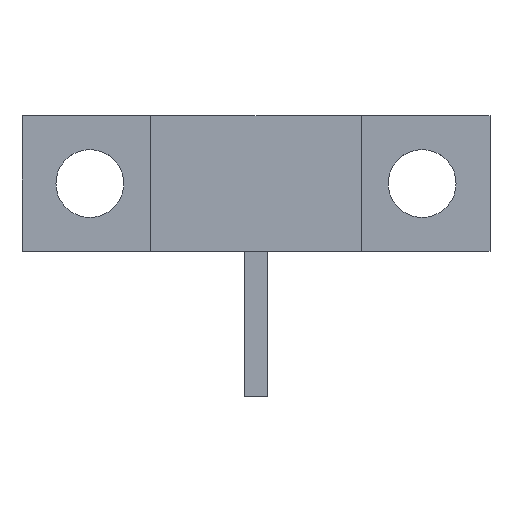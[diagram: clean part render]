
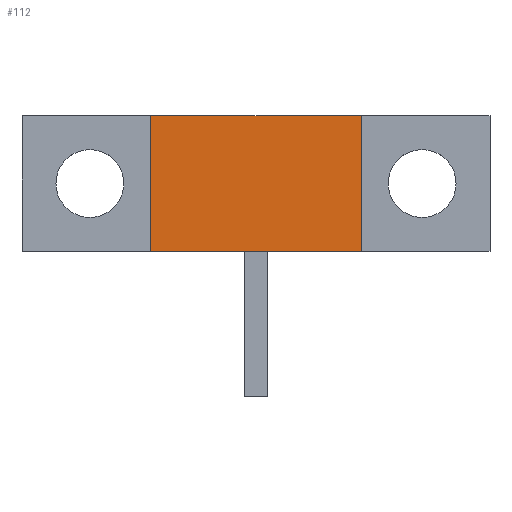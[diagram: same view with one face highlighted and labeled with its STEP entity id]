
A CAD part, top view. The second image highlights one B-rep face of the part: STEP entity #112.
In plain terms, the highlighted planar face has unit normal (0, 0, 1).
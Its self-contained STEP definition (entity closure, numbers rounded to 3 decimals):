
#112=ADVANCED_FACE('',(#255),#257,.T.);
#255=FACE_BOUND('',#256,.T.);
#256=EDGE_LOOP('',(#376,#377,#378,#379));
#257=PLANE('',#258);
#258=AXIS2_PLACEMENT_3D('',#259,#260,#261);
#259=CARTESIAN_POINT('',(0.,0.,3.7));
#260=DIRECTION('',(0.,0.,1.));
#261=DIRECTION('',(-1.,0.,0.));
#376=ORIENTED_EDGE('',*,*,#425,.T.);
#377=ORIENTED_EDGE('',*,*,#445,.T.);
#378=ORIENTED_EDGE('',*,*,#447,.T.);
#379=ORIENTED_EDGE('',*,*,#448,.T.);
#425=EDGE_CURVE('',#467,#465,#468,.T.);
#445=EDGE_CURVE('',#465,#501,#503,.T.);
#447=EDGE_CURVE('',#501,#505,#506,.T.);
#448=EDGE_CURVE('',#505,#467,#507,.T.);
#465=VERTEX_POINT('',#533);
#467=VERTEX_POINT('',#537);
#468=LINE('',#538,#539);
#501=VERTEX_POINT('',#609);
#503=LINE('',#613,#614);
#505=VERTEX_POINT('',#619);
#506=LINE('',#620,#621);
#507=LINE('',#623,#624);
#533=CARTESIAN_POINT('',(4.5,-2.9,3.7));
#537=CARTESIAN_POINT('',(-4.5,-2.9,3.7));
#538=CARTESIAN_POINT('',(-4.5,-2.9,3.7));
#539=VECTOR('',#540,1.);
#540=DIRECTION('',(1.,0.,0.));
#609=CARTESIAN_POINT('',(4.5,2.9,3.7));
#613=CARTESIAN_POINT('',(4.5,-2.9,3.7));
#614=VECTOR('',#615,1.);
#615=DIRECTION('',(0.,1.,0.));
#619=CARTESIAN_POINT('',(-4.5,2.9,3.7));
#620=CARTESIAN_POINT('',(4.5,2.9,3.7));
#621=VECTOR('',#622,1.);
#622=DIRECTION('',(-1.,0.,0.));
#623=CARTESIAN_POINT('',(-4.5,2.9,3.7));
#624=VECTOR('',#625,1.);
#625=DIRECTION('',(0.,-1.,0.));
